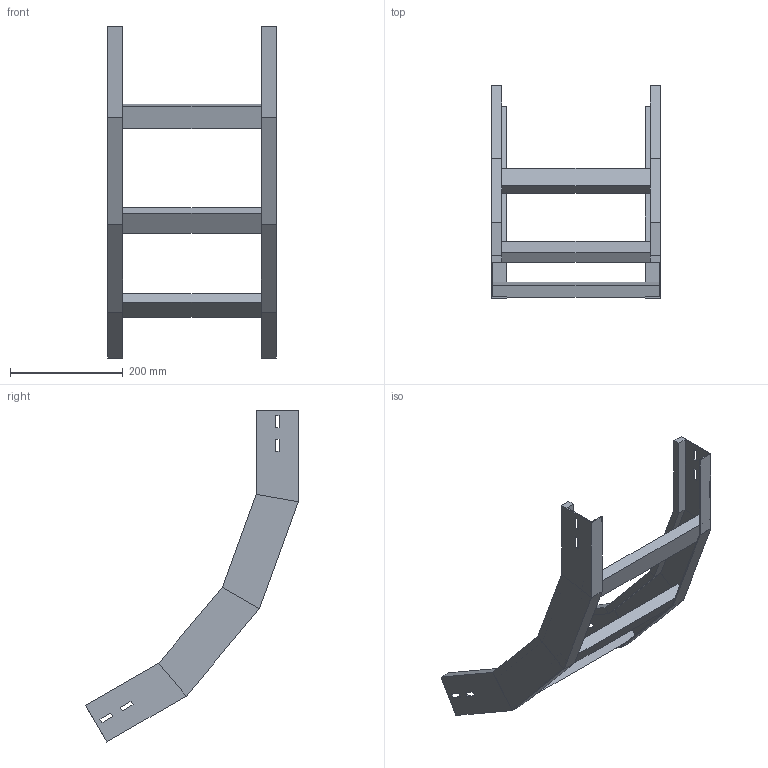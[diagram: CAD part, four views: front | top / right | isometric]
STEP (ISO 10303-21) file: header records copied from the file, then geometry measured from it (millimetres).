
FILE_DESCRIPTION (( 'STEP AP214' ), '1' );
FILE_NAME ('A2X40B5C300XX.step', '2025-03-20T10:17:14', ( '' ), ( '' ), 'SwSTEP 2.0', 'SolidWorks 2023', '' );
FILE_SCHEMA (( 'AUTOMOTIVE_DESIGN' ));
Length unit declared in the file: millimetre
Products named in the file (3): TRAVERSINO_300; A2X40B5C300XX; LONGH.SALITA_60°_H75_R500
Assembly tree (5 placements, depth 2):
  A2X40B5C300XX
    LONGH.SALITA_60°_H75_R500  x2
    TRAVERSINO_300  x3
Bounding box: 300 x 377.79 x 589.4 mm (x, y, z)
Volume: 1249410 mm3; surface area: 440091.6 mm2
Topology: 5 solids, 5 shells, 118 faces, 276 edges, 168 vertices
Faces by surface type: plane 118
Entity records: 1672 total; most frequent: CARTESIAN_POINT 276, ORIENTED_EDGE 264, DIRECTION 260, VECTOR 132, EDGE_CURVE 132, LINE 132, VERTEX_POINT 80, AXIS2_PLACEMENT_3D 64
